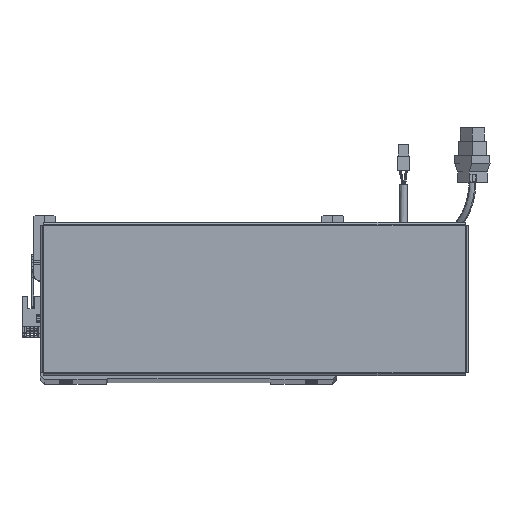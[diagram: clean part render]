
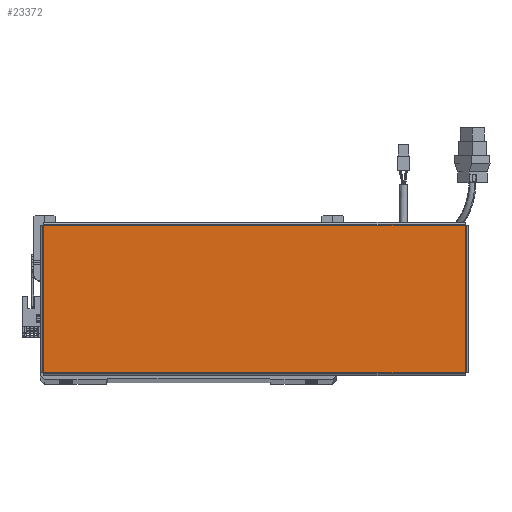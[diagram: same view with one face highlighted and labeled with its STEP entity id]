
A CAD part, top view. The second image highlights one B-rep face of the part: STEP entity #23372.
In plain terms, the highlighted planar face has unit normal (0, 0, 1).
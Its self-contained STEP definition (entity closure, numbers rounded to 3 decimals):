
#264 = DIRECTION ( 'NONE',  ( 1., 0., 0. ) ) ;
#5656 = DIRECTION ( 'NONE',  ( 0., 0., 1. ) ) ;
#6496 = EDGE_CURVE ( 'NONE', #63805, #71781, #50789, .T. ) ;
#11078 = CARTESIAN_POINT ( 'NONE',  ( 156.513, 54.763, 0. ) ) ;
#12616 = CARTESIAN_POINT ( 'NONE',  ( -156.513, -54.763, 0. ) ) ;
#12692 = EDGE_CURVE ( 'NONE', #71781, #68494, #41197, .T. ) ;
#13500 = CARTESIAN_POINT ( 'NONE',  ( 156.513, -54.763, 0. ) ) ;
#15700 = ORIENTED_EDGE ( 'NONE', *, *, #68683, .T. ) ;
#23195 = PLANE ( 'NONE',  #37410 ) ;
#23372 = ADVANCED_FACE ( 'NONE', ( #28562 ), #23195, .T. ) ;
#26425 = ORIENTED_EDGE ( 'NONE', *, *, #12692, .T. ) ;
#27064 = DIRECTION ( 'NONE',  ( 1., 0., 0. ) ) ;
#28562 = FACE_OUTER_BOUND ( 'NONE', #39515, .T. ) ;
#30723 = VECTOR ( 'NONE', #56952, 1000. ) ;
#36257 = DIRECTION ( 'NONE',  ( -1., 0., 0. ) ) ;
#37410 = AXIS2_PLACEMENT_3D ( 'NONE', #52966, #5656, #264 ) ;
#39515 = EDGE_LOOP ( 'NONE', ( #15700, #41295, #26425, #72393 ) ) ;
#39519 = CARTESIAN_POINT ( 'NONE',  ( -156.543, -54.763, 0. ) ) ;
#41197 = LINE ( 'NONE', #59424, #65797 ) ;
#41295 = ORIENTED_EDGE ( 'NONE', *, *, #6496, .T. ) ;
#43844 = LINE ( 'NONE', #39519, #52037 ) ;
#46359 = DIRECTION ( 'NONE',  ( 0., 1., 0. ) ) ;
#50789 = LINE ( 'NONE', #64403, #68963 ) ;
#52037 = VECTOR ( 'NONE', #27064, 1000. ) ;
#52966 = CARTESIAN_POINT ( 'NONE',  ( 0., 0., 0. ) ) ;
#54505 = EDGE_CURVE ( 'NONE', #68494, #67436, #63506, .T. ) ;
#56952 = DIRECTION ( 'NONE',  ( 0., -1., 0. ) ) ;
#59424 = CARTESIAN_POINT ( 'NONE',  ( 156.543, 54.763, 0. ) ) ;
#63147 = CARTESIAN_POINT ( 'NONE',  ( -156.513, 54.763, 0. ) ) ;
#63506 = LINE ( 'NONE', #67368, #30723 ) ;
#63805 = VERTEX_POINT ( 'NONE', #13500 ) ;
#64403 = CARTESIAN_POINT ( 'NONE',  ( 156.513, -54.793, 0. ) ) ;
#65797 = VECTOR ( 'NONE', #36257, 1000. ) ;
#67368 = CARTESIAN_POINT ( 'NONE',  ( -156.513, 54.793, 0. ) ) ;
#67436 = VERTEX_POINT ( 'NONE', #12616 ) ;
#68494 = VERTEX_POINT ( 'NONE', #63147 ) ;
#68683 = EDGE_CURVE ( 'NONE', #67436, #63805, #43844, .T. ) ;
#68963 = VECTOR ( 'NONE', #46359, 1000. ) ;
#71781 = VERTEX_POINT ( 'NONE', #11078 ) ;
#72393 = ORIENTED_EDGE ( 'NONE', *, *, #54505, .T. ) ;
